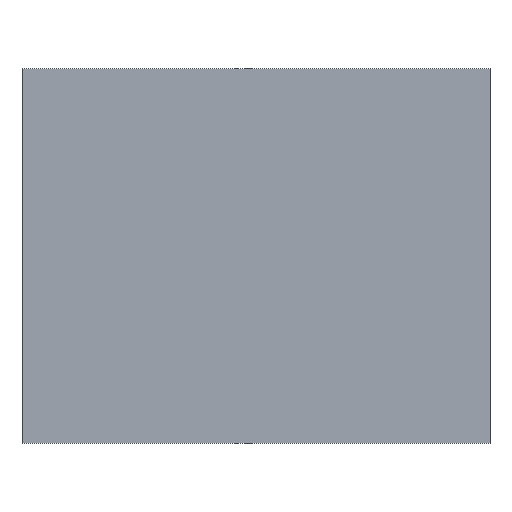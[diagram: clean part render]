
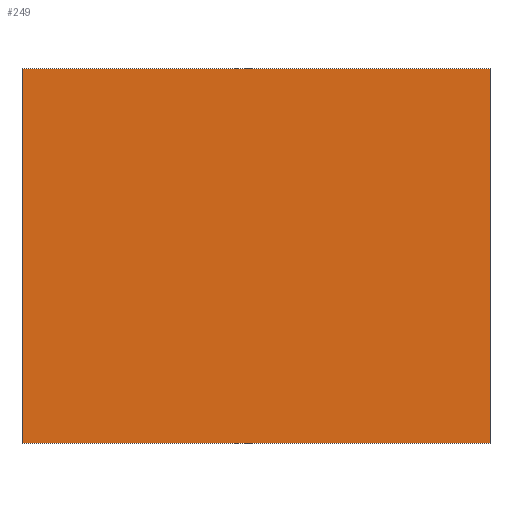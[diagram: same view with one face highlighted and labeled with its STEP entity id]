
A CAD part, front view. The second image highlights one B-rep face of the part: STEP entity #249.
In plain terms, the highlighted planar face has unit normal (0, -1, 0).
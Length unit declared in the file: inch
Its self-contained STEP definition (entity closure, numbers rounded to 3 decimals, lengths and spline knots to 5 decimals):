
#40 = DIRECTION ( 'NONE',  ( -1., 0., 0. ) ) ;
#49 = EDGE_CURVE ( 'NONE', #264, #179, #342, .T. ) ;
#50 = DIRECTION ( 'NONE',  ( 0., 1., 0. ) ) ;
#56 = CARTESIAN_POINT ( 'NONE',  ( -1.85909, 0., -1.13634 ) ) ;
#60 = CARTESIAN_POINT ( 'NONE',  ( 3.14091, 0., -1.13634 ) ) ;
#89 = EDGE_CURVE ( 'NONE', #337, #266, #514, .T. ) ;
#105 = EDGE_CURVE ( 'NONE', #266, #264, #348, .T. ) ;
#108 = CARTESIAN_POINT ( 'NONE',  ( 3.14091, 0., -1.13634 ) ) ;
#126 = FACE_OUTER_BOUND ( 'NONE', #340, .T. ) ;
#145 = CARTESIAN_POINT ( 'NONE',  ( -1.85909, 0., 2.86366 ) ) ;
#156 = CARTESIAN_POINT ( 'NONE',  ( -1.85909, 0., -1.13634 ) ) ;
#160 = VECTOR ( 'NONE', #502, 39.37008 ) ;
#173 = PLANE ( 'NONE',  #410 ) ;
#179 = VERTEX_POINT ( 'NONE', #60 ) ;
#188 = CARTESIAN_POINT ( 'NONE',  ( -1.85909, 0., -1.13634 ) ) ;
#214 = CARTESIAN_POINT ( 'NONE',  ( 3.14091, 0., 2.86366 ) ) ;
#223 = ORIENTED_EDGE ( 'NONE', *, *, #89, .F. ) ;
#229 = ORIENTED_EDGE ( 'NONE', *, *, #49, .F. ) ;
#230 = DIRECTION ( 'NONE',  ( 0., 0., 1. ) ) ;
#249 = ADVANCED_FACE ( 'NONE', ( #126 ), #173, .F. ) ;
#264 = VERTEX_POINT ( 'NONE', #214 ) ;
#266 = VERTEX_POINT ( 'NONE', #335 ) ;
#276 = DIRECTION ( 'NONE',  ( 1., 0., 0. ) ) ;
#283 = VECTOR ( 'NONE', #276, 39.37008 ) ;
#285 = LINE ( 'NONE', #156, #497 ) ;
#310 = ORIENTED_EDGE ( 'NONE', *, *, #432, .F. ) ;
#335 = CARTESIAN_POINT ( 'NONE',  ( -1.85909, 0., 2.86366 ) ) ;
#337 = VERTEX_POINT ( 'NONE', #56 ) ;
#340 = EDGE_LOOP ( 'NONE', ( #223, #310, #229, #500 ) ) ;
#342 = LINE ( 'NONE', #108, #160 ) ;
#348 = LINE ( 'NONE', #145, #283 ) ;
#410 = AXIS2_PLACEMENT_3D ( 'NONE', #503, #50, #454 ) ;
#420 = VECTOR ( 'NONE', #230, 39.37008 ) ;
#432 = EDGE_CURVE ( 'NONE', #179, #337, #285, .T. ) ;
#454 = DIRECTION ( 'NONE',  ( 0., 0., 1. ) ) ;
#497 = VECTOR ( 'NONE', #40, 39.37008 ) ;
#500 = ORIENTED_EDGE ( 'NONE', *, *, #105, .F. ) ;
#502 = DIRECTION ( 'NONE',  ( 0., 0., -1. ) ) ;
#503 = CARTESIAN_POINT ( 'NONE',  ( 0., 0., 0. ) ) ;
#514 = LINE ( 'NONE', #188, #420 ) ;
